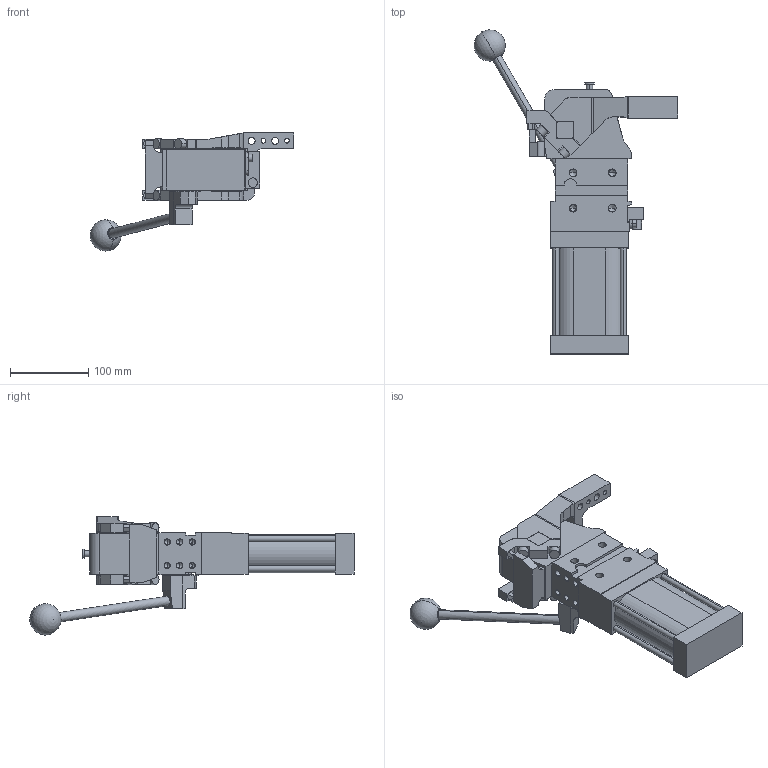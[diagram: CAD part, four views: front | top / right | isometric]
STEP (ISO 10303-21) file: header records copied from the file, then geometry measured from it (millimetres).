
FILE_DESCRIPTION (( 'STEP AP214' ), '1' );
FILE_NAME ('cplm63lbtv1ssi1g_16.STEP', '2023-01-26T14:44:51', ( '' ), ( '' ), 'SwSTEP 2.0', 'SolidWorks 2022', '' );
FILE_SCHEMA (( 'AUTOMOTIVE_DESIGN' ));
Length unit declared in the file: millimetre
Products named in the file (5): cplm63lbtv1ssi1g_16; meccanica_cplm_63_tassello_esterno; leva_v1ss_cpl63t; comando_manuale_cplm_63; blocchetto_VEP_0
Assembly tree (4 placements, depth 2):
  cplm63lbtv1ssi1g_16
    meccanica_cplm_63_tassello_esterno
    blocchetto_VEP_0
    leva_v1ss_cpl63t
    comando_manuale_cplm_63
Bounding box: 260.54 x 414.46 x 151 mm (x, y, z)
Volume: 1909083.1 mm3; surface area: 216496.8 mm2
Topology: 4 solids, 4 shells, 467 faces, 1233 edges, 769 vertices
Faces by surface type: plane 248, cylinder 167, cone 50, sphere 2
Entity records: 15710 total; most frequent: CARTESIAN_POINT 2524, DIRECTION 2488, ORIENTED_EDGE 2364, EDGE_CURVE 1182, AXIS2_PLACEMENT_3D 844, LINE 800, VECTOR 800, VERTEX_POINT 766
